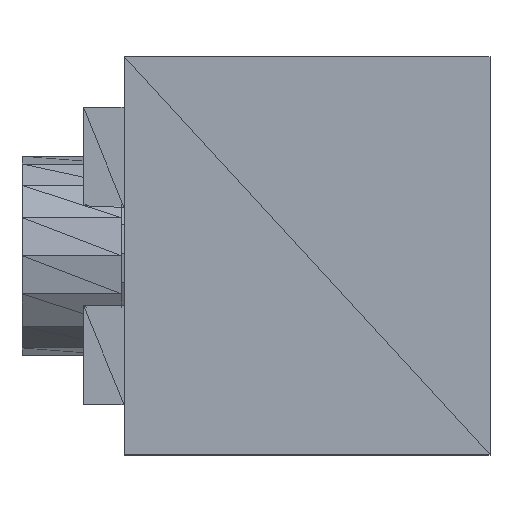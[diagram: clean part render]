
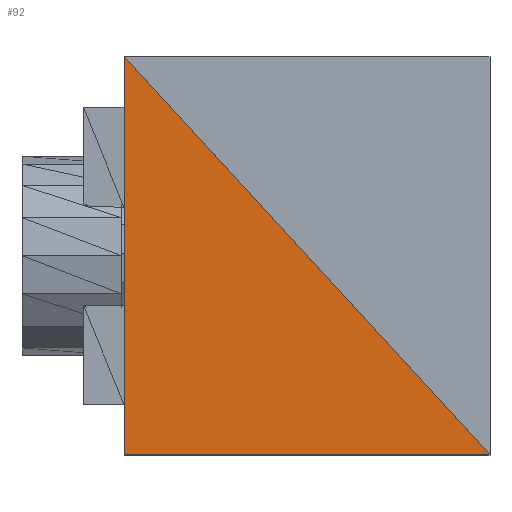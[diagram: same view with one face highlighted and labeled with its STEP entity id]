
A CAD part, top view. The second image highlights one B-rep face of the part: STEP entity #92.
In plain terms, the highlighted planar face has unit normal (0, 0, 1).
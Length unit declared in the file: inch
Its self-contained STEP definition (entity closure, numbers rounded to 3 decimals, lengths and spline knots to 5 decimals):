
#61=CARTESIAN_POINT('',(0.048,0.236,0.24));
#62=DIRECTION('',(0.,0.,1.));
#63=DIRECTION('',(1.,0.,0.));
#64=AXIS2_PLACEMENT_3D('',#61,#62,#63);
#65=PLANE('',#64);
#66=CARTESIAN_POINT('',(0.048,-0.236,0.24));
#67=VERTEX_POINT('',#66);
#68=CARTESIAN_POINT('',(0.048,0.236,0.24));
#69=VERTEX_POINT('',#68);
#70=CARTESIAN_POINT('',(0.048,-0.236,0.24));
#71=DIRECTION('',(0.,1.,0.));
#72=VECTOR('',#71,0.472);
#73=LINE('',#70,#72);
#74=EDGE_CURVE('',#67,#69,#73,.T.);
#75=ORIENTED_EDGE('',*,*,#74,.F.);
#76=CARTESIAN_POINT('',(0.482,-0.236,0.24));
#77=VERTEX_POINT('',#76);
#78=CARTESIAN_POINT('',(0.048,-0.236,0.24));
#79=DIRECTION('',(1.,0.,-0.));
#80=VECTOR('',#79,0.434);
#81=LINE('',#78,#80);
#82=EDGE_CURVE('',#67,#77,#81,.T.);
#83=ORIENTED_EDGE('',*,*,#82,.T.);
#84=CARTESIAN_POINT('',(0.048,0.236,0.24));
#85=DIRECTION('',(0.677,-0.736,0.));
#86=VECTOR('',#85,0.6412);
#87=LINE('',#84,#86);
#88=EDGE_CURVE('',#69,#77,#87,.T.);
#89=ORIENTED_EDGE('',*,*,#88,.F.);
#90=EDGE_LOOP('',(#75,#83,#89));
#91=FACE_BOUND('',#90,.T.);
#92=ADVANCED_FACE('',(#91),#65,.T.);
